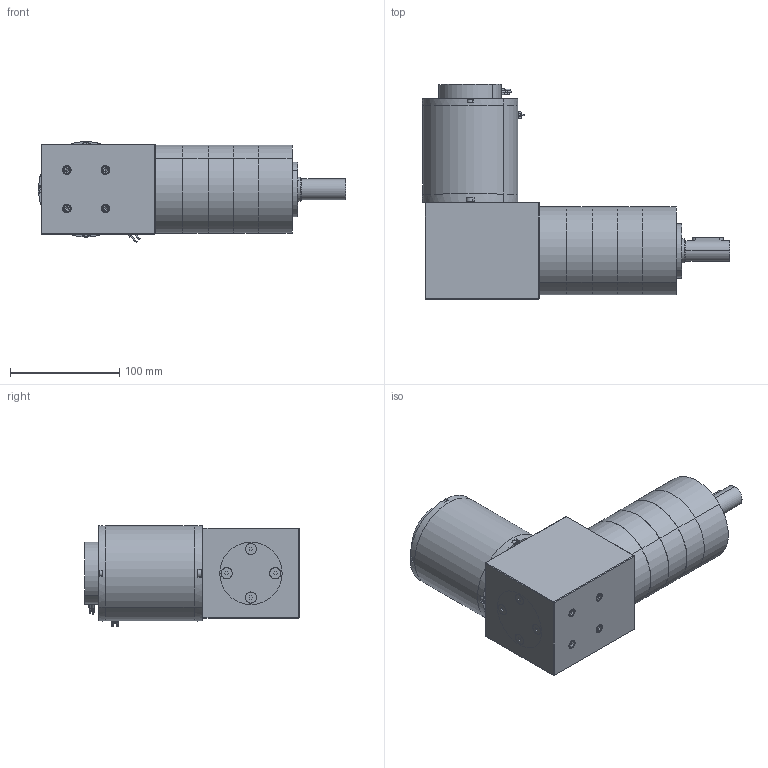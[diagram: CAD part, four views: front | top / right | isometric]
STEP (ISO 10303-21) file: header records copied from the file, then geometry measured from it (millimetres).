
FILE_DESCRIPTION (( 'STEP AP203' ), '1' );
FILE_NAME ('bl86425gra4.step', '2018-12-07T19:07:29', ( '' ), ( '' ), 'SwSTEP 2.0', 'SolidWorks 2017', '' );
FILE_SCHEMA (( 'CONFIG_CONTROL_DESIGN' ));
Length unit declared in the file: inch
Products named in the file (1): bl86425gra4
Bounding box: 281.38 x 196.85 x 92.26 mm (x, y, z)
Volume: 2036021.3 mm3; surface area: 220808.9 mm2
Topology: 35 solids, 35 shells, 1293 faces, 3222 edges, 2068 vertices
Faces by surface type: cylinder 748, plane 384, cone 137, torus 16, bspline 8
Entity records: 57568 total; most frequent: CARTESIAN_POINT 29126, ORIENTED_EDGE 6404, DIRECTION 5481, EDGE_CURVE 3202, VERTEX_POINT 2068, AXIS2_PLACEMENT_3D 2001, LINE 1479, VECTOR 1479
